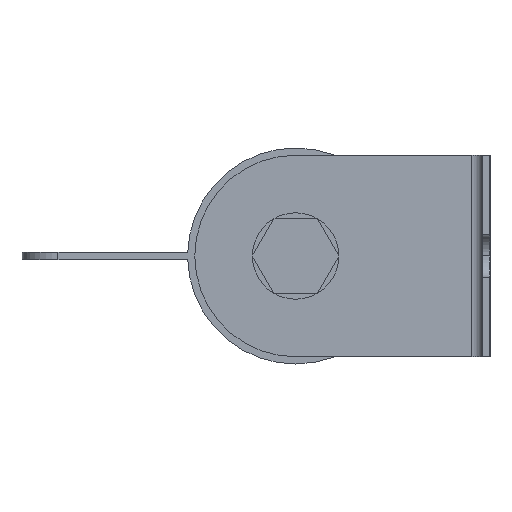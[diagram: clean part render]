
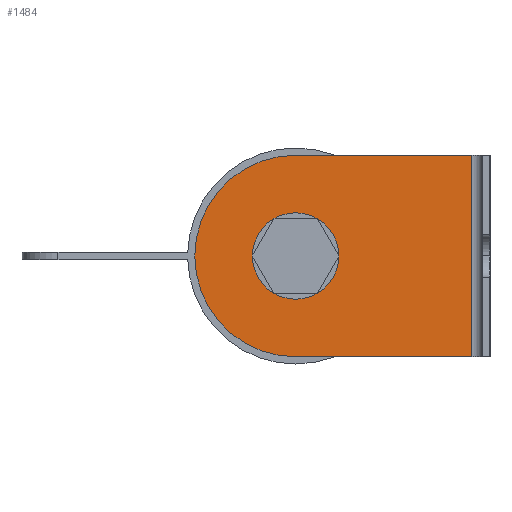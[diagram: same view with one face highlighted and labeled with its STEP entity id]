
A CAD part, left-side view. The second image highlights one B-rep face of the part: STEP entity #1484.
In plain terms, the highlighted planar face has unit normal (-1, 0, 0).
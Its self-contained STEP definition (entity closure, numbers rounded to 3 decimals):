
#77 = DIRECTION ( 'NONE',  ( -1., 0., 0. ) ) ;
#187 = CARTESIAN_POINT ( 'NONE',  ( -156.5, 0., 0. ) ) ;
#225 = LINE ( 'NONE', #1668, #2729 ) ;
#258 = ORIENTED_EDGE ( 'NONE', *, *, #349, .T. ) ;
#333 = EDGE_CURVE ( 'NONE', #2641, #1197, #1262, .T. ) ;
#349 = EDGE_CURVE ( 'NONE', #1729, #1313, #1770, .T. ) ;
#642 = FACE_OUTER_BOUND ( 'NONE', #2421, .T. ) ;
#649 = CARTESIAN_POINT ( 'NONE',  ( -156.5, 0., 14. ) ) ;
#664 = CIRCLE ( 'NONE', #679, 14. ) ;
#679 = AXIS2_PLACEMENT_3D ( 'NONE', #742, #77, #1160 ) ;
#742 = CARTESIAN_POINT ( 'NONE',  ( -156.5, 0., 0. ) ) ;
#778 = LINE ( 'NONE', #2770, #2458 ) ;
#881 = AXIS2_PLACEMENT_3D ( 'NONE', #187, #2790, #2353 ) ;
#901 = EDGE_CURVE ( 'NONE', #1575, #1729, #778, .T. ) ;
#1089 = FACE_BOUND ( 'NONE', #2136, .T. ) ;
#1112 = DIRECTION ( 'NONE',  ( -1., 0., 0. ) ) ;
#1141 = EDGE_CURVE ( 'NONE', #1313, #1219, #664, .T. ) ;
#1160 = DIRECTION ( 'NONE',  ( 0., 0., 1. ) ) ;
#1197 = VERTEX_POINT ( 'NONE', #2027 ) ;
#1213 = CARTESIAN_POINT ( 'NONE',  ( -156.5, 0., 0. ) ) ;
#1219 = VERTEX_POINT ( 'NONE', #2104 ) ;
#1232 = CARTESIAN_POINT ( 'NONE',  ( -156.5, 0., 14. ) ) ;
#1262 = CIRCLE ( 'NONE', #881, 6. ) ;
#1313 = VERTEX_POINT ( 'NONE', #1232 ) ;
#1421 = DIRECTION ( 'NONE',  ( 0., 0., 1. ) ) ;
#1440 = CARTESIAN_POINT ( 'NONE',  ( -156.5, -24.5, -14. ) ) ;
#1484 = ADVANCED_FACE ( 'NONE', ( #1089, #642 ), #1619, .T. ) ;
#1526 = ORIENTED_EDGE ( 'NONE', *, *, #2202, .F. ) ;
#1575 = VERTEX_POINT ( 'NONE', #1440 ) ;
#1616 = CARTESIAN_POINT ( 'NONE',  ( -156.5, 0., 6. ) ) ;
#1619 = PLANE ( 'NONE',  #2677 ) ;
#1668 = CARTESIAN_POINT ( 'NONE',  ( -156.5, 0., -14. ) ) ;
#1682 = DIRECTION ( 'NONE',  ( 0., -1., 0. ) ) ;
#1690 = CARTESIAN_POINT ( 'NONE',  ( -156.5, -24.5, 14. ) ) ;
#1729 = VERTEX_POINT ( 'NONE', #1690 ) ;
#1770 = LINE ( 'NONE', #649, #2761 ) ;
#1848 = ORIENTED_EDGE ( 'NONE', *, *, #333, .F. ) ;
#1935 = DIRECTION ( 'NONE',  ( 0., 0., 1. ) ) ;
#2027 = CARTESIAN_POINT ( 'NONE',  ( -156.5, 0., -6. ) ) ;
#2104 = CARTESIAN_POINT ( 'NONE',  ( -156.5, 0., -14. ) ) ;
#2136 = EDGE_LOOP ( 'NONE', ( #1526, #1848 ) ) ;
#2202 = EDGE_CURVE ( 'NONE', #1197, #2641, #2244, .T. ) ;
#2203 = ORIENTED_EDGE ( 'NONE', *, *, #1141, .T. ) ;
#2244 = CIRCLE ( 'NONE', #2283, 6. ) ;
#2283 = AXIS2_PLACEMENT_3D ( 'NONE', #2394, #1112, #2597 ) ;
#2347 = EDGE_CURVE ( 'NONE', #1219, #1575, #225, .T. ) ;
#2353 = DIRECTION ( 'NONE',  ( 0., 0., 1. ) ) ;
#2394 = CARTESIAN_POINT ( 'NONE',  ( -156.5, 0., 0. ) ) ;
#2421 = EDGE_LOOP ( 'NONE', ( #2559, #2736, #258, #2203 ) ) ;
#2458 = VECTOR ( 'NONE', #1935, 1000. ) ;
#2559 = ORIENTED_EDGE ( 'NONE', *, *, #2347, .T. ) ;
#2597 = DIRECTION ( 'NONE',  ( 0., 0., 1. ) ) ;
#2641 = VERTEX_POINT ( 'NONE', #1616 ) ;
#2677 = AXIS2_PLACEMENT_3D ( 'NONE', #1213, #2703, #1421 ) ;
#2703 = DIRECTION ( 'NONE',  ( -1., 0., 0. ) ) ;
#2729 = VECTOR ( 'NONE', #1682, 1000. ) ;
#2736 = ORIENTED_EDGE ( 'NONE', *, *, #901, .T. ) ;
#2760 = DIRECTION ( 'NONE',  ( 0., 1., 0. ) ) ;
#2761 = VECTOR ( 'NONE', #2760, 1000. ) ;
#2770 = CARTESIAN_POINT ( 'NONE',  ( -156.5, -24.5, 14. ) ) ;
#2790 = DIRECTION ( 'NONE',  ( -1., 0., 0. ) ) ;
